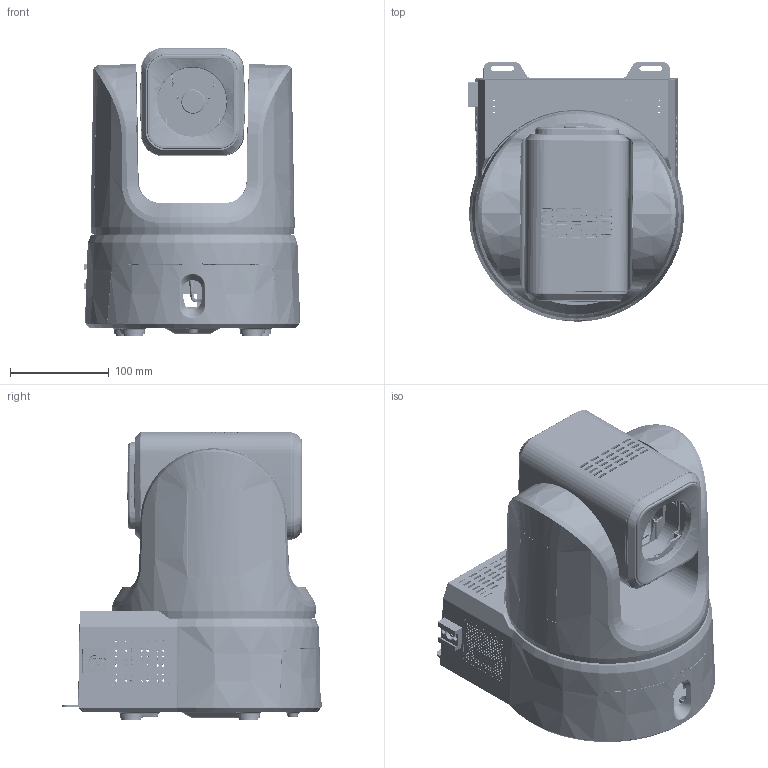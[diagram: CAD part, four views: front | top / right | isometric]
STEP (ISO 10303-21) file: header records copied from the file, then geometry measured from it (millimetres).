
FILE_DESCRIPTION(/* description */ (''),/* implementation_level */ '2;1');
FILE_NAME(/* name */ 'BirdDog-XL-Ultra-3D-file_v2.step',/* time_stamp */ '2025-09-23T12:01:48+10:00',/* author */ (''),/* organization */ (''),/* preprocessor_version */ 'ST-DEVELOPER v20.1',/* originating_system */ 'Autodesk Translation Framework v14.17.0.0',/* authorisation */ '');
FILE_SCHEMA (('AUTOMOTIVE_DESIGN { 1 0 10303 214 3 1 1 }'));
Length unit declared in the file: millimetre
Products named in the file (26): XL-ASM_ASM; XL-ASM_1_ASM; 002_ASM; XL--468210; XL--20922580; XL-000; MESH-AIR-GRID-2; Y02991300008_0001; XL-000_1; 002; XL-00; 000_ASM; XL-109999900; 0002_ASM; 0000_ASM; 000; 00_ASM; 00; _171103500; 00_ASM_1; 00_2; _173549600; _172849000; 0002_ASM_1; XL-95031900; 20001
Assembly tree (30 placements, depth 6):
  XL-ASM_ASM
    XL-ASM_1_ASM
      002_ASM
        MESH-AIR-GRID-2  x2
        Y02991300008_0001  x3
        XL--468210
        XL--20922580
        XL-000
        XL-000_1
        002
        XL-00
      000_ASM
        XL-109999900
        0002_ASM
          XL-95031900
          20001
        0000_ASM
          000
          00_ASM
            00
          _171103500
          00_ASM_1
            00_2
            _173549600
          _172849000
        0002_ASM_1
          XL-95031900
          20001
Bounding box: 219.79 x 263.25 x 292.5 mm (x, y, z)
Volume: 1154123.5 mm3; surface area: 1034773.4 mm2
Topology: 25 solids, 31 shells, 15494 faces, 43101 edges, 27566 vertices
Faces by surface type: cylinder 7792, plane 4119, bspline 1357, cone 1080, torus 933, sphere 213
Full cylindrical faces by diameter (mm): 0.6 x4938, 1.6 x7, 1.609 x1, 2 x42, 2.1 x5, 2.12 x2, 2.2 x30, 2.49 x1, 2.5 x18, 2.65 x2, 2.7 x2, 2.8 x12, 3 x1, 3.2 x14, 3.3 x1, 4.1 x2, 4.5 x14, 4.7 x4, 4.8 x3, 5 x8, 5.2 x2, 5.5 x6, 6 x1, 6.7 x1, 7 x4, 8 x1, 8.4 x1, 8.6 x6, 10 x10, 10.6 x1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
Entity records: 538223 total; most frequent: CARTESIAN_POINT 207087, ORIENTED_EDGE 68333, DIRECTION 68169, EDGE_CURVE 34187, AXIS2_PLACEMENT_3D 26274, VERTEX_POINT 21754, EDGE_LOOP 18723, LINE 15621
